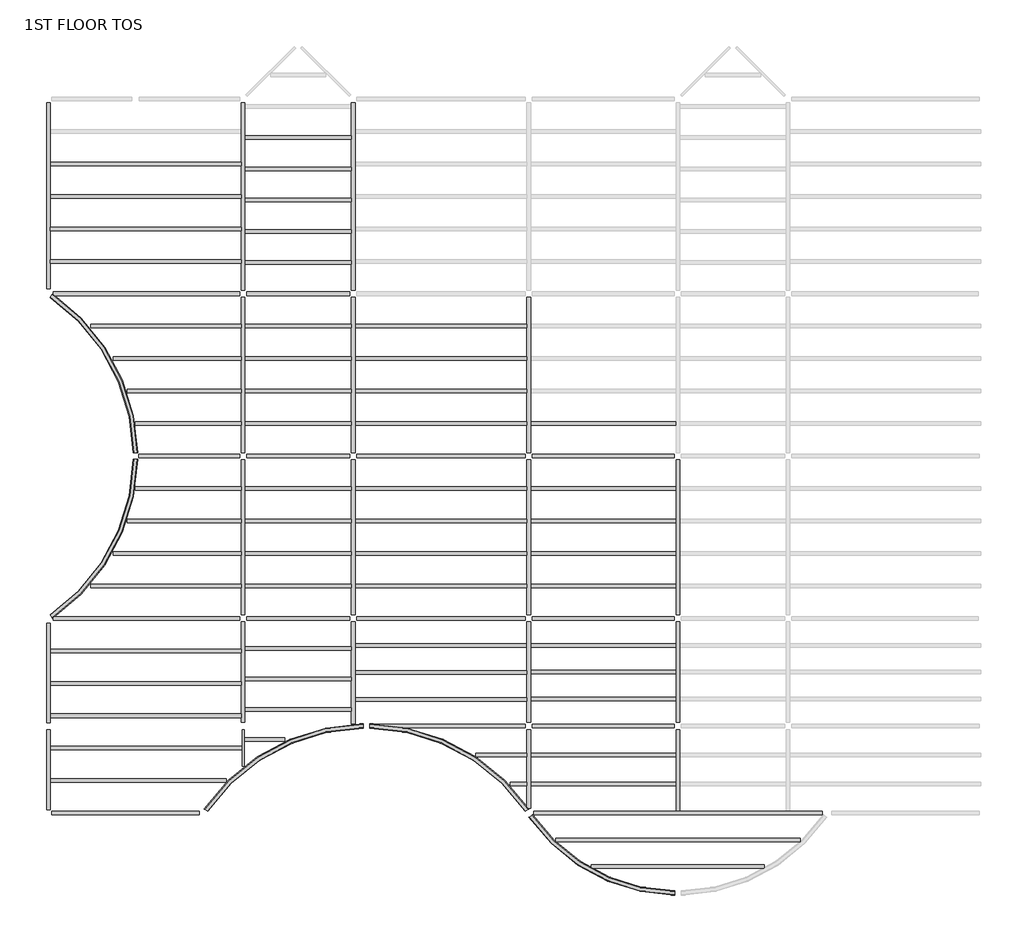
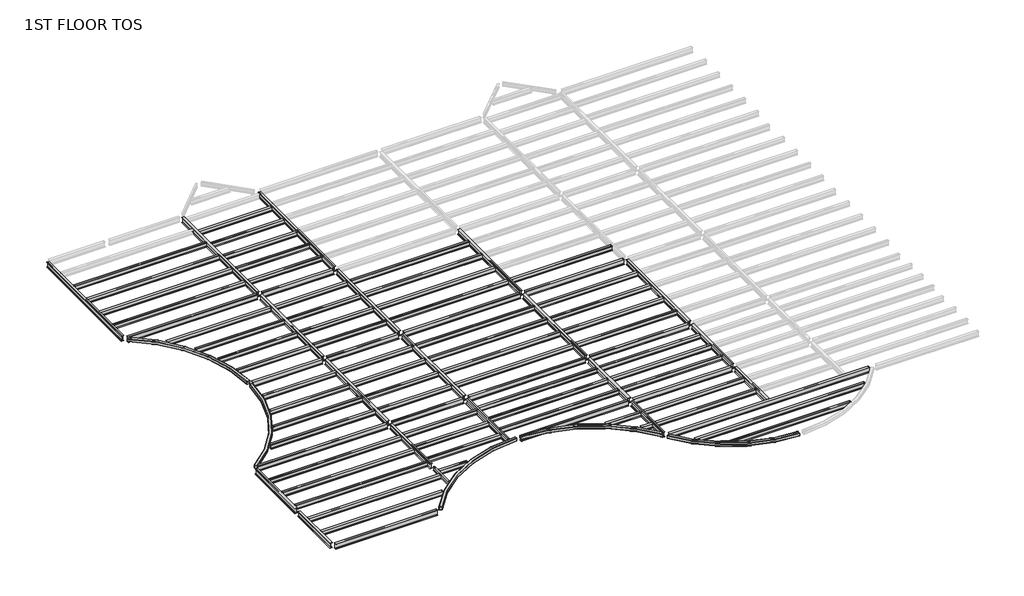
# One storey, part 1 of 2: 97 beams.
"""IFC4 building model written with IfcOpenShell, lengths in millimetres."""

from ifc_helpers import new_model, si_unit, origin, place, context, project, spatial, transform, mapped, element, save
from components import m_hss_square_hss203_2x203_2x9_5_18346204, m_hss_square_hss203_2x203_2x9_5_914ff4eb, m_hss_square_hss203_2x203_2x9_5_d5f1e8c4, m_hss_square_hss203_2x203_2x9_5_0e3d8e6e, m_hss_square_hss203_2x203_2x9_5_16dc1c03, ub_universal_beams_ub254x102x28_4e7f3726, ub_universal_beams_ub305x165x40_c4d0385b, ub_universal_beams_ub305x165x40_d3abc31d, ub_universal_beams_ub305x165x40_0c73730f, ub_universal_beams_ub305x165x40_2a963f0c, ub_universal_beams_ub305x165x40_0a5f2f96, ub_universal_beams_ub305x165x40_d1f7c369, ub_universal_beams_ub305x165x40_83d7b7d5, ub_universal_beams_ub305x165x40_729a4ea5, ub_universal_beams_ub305x165x40_71dfa851, ub_universal_beams_ub305x165x40_619b5398, ub_universal_beams_ub305x165x40_c3492db1, ub_universal_beams_ub305x165x40_8f1c350d, ub_universal_beams_ub305x165x40_3afb5f90, ub_universal_beams_ub305x165x40_767d1929, ub_universal_beams_ub305x165x40_5941ca45, ub_universal_beams_ub356x171x51_ef72dcdd, ub_universal_beams_ub356x171x51_7f80702c, ub_universal_beams_ub356x171x51_dfc36663, ub_universal_beams_ub356x171x51_405a853e, ub_universal_beams_ub356x171x51_e47b7055, ub_universal_beams_ub356x171x51_e97f8d2e, ub_universal_beams_ub356x171x51_11d6b780, ub_universal_beams_ub356x171x51_76b2d20b, ub_universal_beams_ub356x171x51_145ecd4b, ub_universal_beams_ub356x171x51_c7dff8d2, ub_universal_beams_ub356x171x51_834c6e34, ub_universal_beams_ub356x171x51_a38b99de, ub_universal_beams_ub356x171x51_d8f4cdde, ub_universal_beams_ub356x171x51_8094f821, ub_universal_beams_ub356x171x51_c03c70fb, ub_universal_beams_ub356x171x51_e661f2e4, ub_universal_beams_ub356x171x51_3ee91673, ub_universal_beams_ub356x171x51_a871b283, ub_universal_beams_ub356x171x51_741bae58

model = new_model("IFC4")

# Units and contexts
model_context = context("Model", 3, world=origin())
ifc_project = project(units=[si_unit("LENGTHUNIT", "METRE", prefix="MILLI")], contexts=[model_context])

# Site, building, storey
site = spatial("IfcSite", under=ifc_project)
building = spatial("IfcBuilding", under=site)
storey = spatial("IfcBuildingStorey", under=building, Name="1ST FLOOR TOS", Elevation=4419.6)

# Beams
placement = place(None, origin())
m_hss_square_hss203_2x203_2x9_5_shape = m_hss_square_hss203_2x203_2x9_5_18346204(model_context)
element("IfcBeam", 1, ObjectType="M_HSS Square : HSS203.2X203.2X9.5", at=placement, inside=storey, context=model_context, shape_type="MappedRepresentation", body=[
    mapped(m_hss_square_hss203_2x203_2x9_5_shape, transform((29734.7266693, -3601.398624, 4318.1), x_axis=(-0.9999968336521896, -0.0025164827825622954, 0.0), y_axis=(0.0025164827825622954, -0.9999968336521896, 0.0), z_axis=(0.0, 0.0, 1.0))),
])
m_hss_square_hss203_2x203_2x9_5_2_shape = m_hss_square_hss203_2x203_2x9_5_914ff4eb(model_context)
element("IfcBeam", 2, ObjectType="M_HSS Square : HSS203.2X203.2X9.5", at=placement, inside=storey, context=model_context, shape_type="MappedRepresentation", body=[
    mapped(m_hss_square_hss203_2x203_2x9_5_2_shape, transform((22710.575, 155.575, 4318.1), x_axis=(-0.552849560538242, 0.8332810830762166, 0.0), y_axis=(-0.8332810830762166, -0.552849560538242, 0.0), z_axis=(0.0, 0.0, 1.0))),
])
m_hss_square_hss203_2x203_2x9_5_3_shape = m_hss_square_hss203_2x203_2x9_5_d5f1e8c4(model_context)
element("IfcBeam", 3, ObjectType="M_HSS Square : HSS203.2X203.2X9.5", at=placement, inside=storey, context=model_context, shape_type="MappedRepresentation", body=[
    mapped(m_hss_square_hss203_2x203_2x9_5_3_shape, transform((15096.4572854, 4244.5731081, 4318.1), x_axis=(-0.9999997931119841, 0.0006432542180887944, 0.0), y_axis=(-0.0006432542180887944, -0.9999997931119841, 0.0), z_axis=(0.0, 0.0, 1.0))),
])
m_hss_square_hss203_2x203_2x9_5_4_shape = m_hss_square_hss203_2x203_2x9_5_0e3d8e6e(model_context)
element("IfcBeam", 4, ObjectType="M_HSS Square : HSS203.2X203.2X9.5", at=placement, inside=storey, context=model_context, shape_type="MappedRepresentation", body=[
    mapped(m_hss_square_hss203_2x203_2x9_5_4_shape, transform((155.575, 9299.575, 4318.1), x_axis=(0.8332810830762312, 0.5528495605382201, 0.0), y_axis=(-0.5528495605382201, 0.8332810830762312, 0.0), z_axis=(0.0, 0.0, 1.0))),
])
m_hss_square_hss203_2x203_2x9_5_5_shape = m_hss_square_hss203_2x203_2x9_5_16dc1c03(model_context)
element("IfcBeam", 5, ObjectType="M_HSS Square : HSS203.2X203.2X9.5", at=placement, inside=storey, context=model_context, shape_type="MappedRepresentation", body=[
    mapped(m_hss_square_hss203_2x203_2x9_5_5_shape, transform((155.575, 24539.575, 4318.1), x_axis=(0.8332810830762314, -0.5528495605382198, 0.0), y_axis=(0.5528495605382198, 0.8332810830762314, 0.0), z_axis=(0.0, 0.0, 1.0))),
])
ub_universal_beams_ub254x102x28_shape = ub_universal_beams_ub254x102x28_4e7f3726(model_context)
element("IfcBeam", 6, ObjectType="UB-Universal Beams : UB254x102x28", at=placement, inside=storey, context=model_context, shape_type="MappedRepresentation", body=[
    mapped(ub_universal_beams_ub254x102x28_shape, transform((9299.575, 3210.915913, 4289.4), x_axis=(0.0, -1.0, 0.0), y_axis=(1.0, 0.0, 0.0), z_axis=(0.0, 0.0, 1.0))),
])
ub_universal_beams_ub305x165x40_shape = ub_universal_beams_ub305x165x40_c4d0385b(model_context)
element("IfcBeam", 7, ObjectType="UB-Universal Beams : UB305x165x40", at=placement, inside=storey, context=model_context, shape_type="MappedRepresentation", body=[
    mapped(ub_universal_beams_ub305x165x40_shape, transform((4727.575, 30635.575, 4267.9), x_axis=(1.0, 0.0, 0.0), y_axis=(0.0, 1.0, 0.0), z_axis=(0.0, 0.0, 1.0))),
])
element("IfcBeam", 8, ObjectType="UB-Universal Beams : UB305x165x40", at=placement, inside=storey, context=model_context, shape_type="MappedRepresentation", body=[
    mapped(ub_universal_beams_ub305x165x40_shape, transform((4727.575, 29111.575, 4267.9), x_axis=(1.0, 0.0, 0.0), y_axis=(0.0, 1.0, 0.0), z_axis=(0.0, 0.0, 1.0))),
])
element("IfcBeam", 9, ObjectType="UB-Universal Beams : UB305x165x40", at=placement, inside=storey, context=model_context, shape_type="MappedRepresentation", body=[
    mapped(ub_universal_beams_ub305x165x40_shape, transform((4727.575, 27587.575, 4267.9), x_axis=(1.0, 0.0, 0.0), y_axis=(0.0, 1.0, 0.0), z_axis=(0.0, 0.0, 1.0))),
])
element("IfcBeam", 10, ObjectType="UB-Universal Beams : UB305x165x40", at=placement, inside=storey, context=model_context, shape_type="MappedRepresentation", body=[
    mapped(ub_universal_beams_ub305x165x40_shape, transform((4727.575, 26063.575, 4267.9), x_axis=(1.0, 0.0, 0.0), y_axis=(0.0, 1.0, 0.0), z_axis=(0.0, 0.0, 1.0))),
])
element("IfcBeam", 11, ObjectType="UB-Universal Beams : UB305x165x40", at=placement, inside=storey, context=model_context, shape_type="MappedRepresentation", body=[
    mapped(ub_universal_beams_ub305x165x40_shape, transform((4727.575, 4727.575, 4267.9), x_axis=(-1.0, 0.0, 0.0), y_axis=(0.0, -1.0, 0.0), z_axis=(0.0, 0.0, 1.0))),
])
element("IfcBeam", 12, ObjectType="UB-Universal Beams : UB305x165x40", at=placement, inside=storey, context=model_context, shape_type="MappedRepresentation", body=[
    mapped(ub_universal_beams_ub305x165x40_shape, transform((4727.575, 6251.575, 4267.9), x_axis=(-1.0, 0.0, 0.0), y_axis=(0.0, -1.0, 0.0), z_axis=(0.0, 0.0, 1.0))),
])
element("IfcBeam", 13, ObjectType="UB-Universal Beams : UB305x165x40", at=placement, inside=storey, context=model_context, shape_type="MappedRepresentation", body=[
    mapped(ub_universal_beams_ub305x165x40_shape, transform((4727.575, 7775.575, 4267.9), x_axis=(-1.0, 0.0, 0.0), y_axis=(0.0, -1.0, 0.0), z_axis=(0.0, 0.0, 1.0))),
])
ub_universal_beams_ub305x165x40_2_shape = ub_universal_beams_ub305x165x40_d3abc31d(model_context)
element("IfcBeam", 14, ObjectType="UB-Universal Beams : UB305x165x40", at=placement, inside=storey, context=model_context, shape_type="MappedRepresentation", body=[
    mapped(ub_universal_beams_ub305x165x40_2_shape, transform((11885.575, 31870.825, 4267.9), x_axis=(1.0, 0.0, 0.0), y_axis=(0.0, 1.0, 0.0), z_axis=(0.0, 0.0, 1.0))),
])
element("IfcBeam", 15, ObjectType="UB-Universal Beams : UB305x165x40", at=placement, inside=storey, context=model_context, shape_type="MappedRepresentation", body=[
    mapped(ub_universal_beams_ub305x165x40_2_shape, transform((11885.575, 30404.575, 4267.9), x_axis=(1.0, 0.0, 0.0), y_axis=(0.0, 1.0, 0.0), z_axis=(0.0, 0.0, 1.0))),
])
element("IfcBeam", 16, ObjectType="UB-Universal Beams : UB305x165x40", at=placement, inside=storey, context=model_context, shape_type="MappedRepresentation", body=[
    mapped(ub_universal_beams_ub305x165x40_2_shape, transform((11885.575, 28938.325, 4267.9), x_axis=(1.0, 0.0, 0.0), y_axis=(0.0, 1.0, 0.0), z_axis=(0.0, 0.0, 1.0))),
])
element("IfcBeam", 17, ObjectType="UB-Universal Beams : UB305x165x40", at=placement, inside=storey, context=model_context, shape_type="MappedRepresentation", body=[
    mapped(ub_universal_beams_ub305x165x40_2_shape, transform((11885.575, 27472.075, 4267.9), x_axis=(1.0, 0.0, 0.0), y_axis=(0.0, 1.0, 0.0), z_axis=(0.0, 0.0, 1.0))),
])
element("IfcBeam", 18, ObjectType="UB-Universal Beams : UB305x165x40", at=placement, inside=storey, context=model_context, shape_type="MappedRepresentation", body=[
    mapped(ub_universal_beams_ub305x165x40_2_shape, transform((11885.575, 26005.825, 4267.9), x_axis=(1.0, 0.0, 0.0), y_axis=(0.0, 1.0, 0.0), z_axis=(0.0, 0.0, 1.0))),
])
element("IfcBeam", 19, ObjectType="UB-Universal Beams : UB305x165x40", at=placement, inside=storey, context=model_context, shape_type="MappedRepresentation", body=[
    mapped(ub_universal_beams_ub305x165x40_2_shape, transform((11885.575, 23015.575, 4267.9), x_axis=(1.0, 0.0, 0.0), y_axis=(0.0, 1.0, 0.0), z_axis=(0.0, 0.0, 1.0))),
])
element("IfcBeam", 20, ObjectType="UB-Universal Beams : UB305x165x40", at=placement, inside=storey, context=model_context, shape_type="MappedRepresentation", body=[
    mapped(ub_universal_beams_ub305x165x40_2_shape, transform((11885.575, 21491.575, 4267.9), x_axis=(1.0, 0.0, 0.0), y_axis=(0.0, 1.0, 0.0), z_axis=(0.0, 0.0, 1.0))),
])
element("IfcBeam", 21, ObjectType="UB-Universal Beams : UB305x165x40", at=placement, inside=storey, context=model_context, shape_type="MappedRepresentation", body=[
    mapped(ub_universal_beams_ub305x165x40_2_shape, transform((11885.575, 19967.575, 4267.9), x_axis=(1.0, 0.0, 0.0), y_axis=(0.0, 1.0, 0.0), z_axis=(0.0, 0.0, 1.0))),
])
element("IfcBeam", 22, ObjectType="UB-Universal Beams : UB305x165x40", at=placement, inside=storey, context=model_context, shape_type="MappedRepresentation", body=[
    mapped(ub_universal_beams_ub305x165x40_2_shape, transform((11885.575, 18443.575, 4267.9), x_axis=(1.0, 0.0, 0.0), y_axis=(0.0, 1.0, 0.0), z_axis=(0.0, 0.0, 1.0))),
])
element("IfcBeam", 23, ObjectType="UB-Universal Beams : UB305x165x40", at=placement, inside=storey, context=model_context, shape_type="MappedRepresentation", body=[
    mapped(ub_universal_beams_ub305x165x40_2_shape, transform((11885.575, 15395.575, 4267.9), x_axis=(1.0, 0.0, 0.0), y_axis=(0.0, 1.0, 0.0), z_axis=(0.0, 0.0, 1.0))),
])
element("IfcBeam", 24, ObjectType="UB-Universal Beams : UB305x165x40", at=placement, inside=storey, context=model_context, shape_type="MappedRepresentation", body=[
    mapped(ub_universal_beams_ub305x165x40_2_shape, transform((11885.575, 13871.575, 4267.9), x_axis=(1.0, 0.0, 0.0), y_axis=(0.0, 1.0, 0.0), z_axis=(0.0, 0.0, 1.0))),
])
element("IfcBeam", 25, ObjectType="UB-Universal Beams : UB305x165x40", at=placement, inside=storey, context=model_context, shape_type="MappedRepresentation", body=[
    mapped(ub_universal_beams_ub305x165x40_2_shape, transform((11885.575, 12347.575, 4267.9), x_axis=(1.0, 0.0, 0.0), y_axis=(0.0, 1.0, 0.0), z_axis=(0.0, 0.0, 1.0))),
])
element("IfcBeam", 26, ObjectType="UB-Universal Beams : UB305x165x40", at=placement, inside=storey, context=model_context, shape_type="MappedRepresentation", body=[
    mapped(ub_universal_beams_ub305x165x40_2_shape, transform((11885.575, 10823.575, 4267.9), x_axis=(1.0, 0.0, 0.0), y_axis=(0.0, 1.0, 0.0), z_axis=(0.0, 0.0, 1.0))),
])
element("IfcBeam", 27, ObjectType="UB-Universal Beams : UB305x165x40", at=placement, inside=storey, context=model_context, shape_type="MappedRepresentation", body=[
    mapped(ub_universal_beams_ub305x165x40_2_shape, transform((11885.575, 5026.1840956, 4267.9), x_axis=(-1.0, 0.0, 0.0), y_axis=(0.0, -1.0, 0.0), z_axis=(0.0, 0.0, 1.0))),
])
element("IfcBeam", 28, ObjectType="UB-Universal Beams : UB305x165x40", at=placement, inside=storey, context=model_context, shape_type="MappedRepresentation", body=[
    mapped(ub_universal_beams_ub305x165x40_2_shape, transform((11885.575, 6450.6477304, 4267.9), x_axis=(-1.0, 0.0, 0.0), y_axis=(0.0, -1.0, 0.0), z_axis=(0.0, 0.0, 1.0))),
])
element("IfcBeam", 29, ObjectType="UB-Universal Beams : UB305x165x40", at=placement, inside=storey, context=model_context, shape_type="MappedRepresentation", body=[
    mapped(ub_universal_beams_ub305x165x40_2_shape, transform((11885.575, 7875.1113652, 4267.9), x_axis=(-1.0, 0.0, 0.0), y_axis=(0.0, -1.0, 0.0), z_axis=(0.0, 0.0, 1.0))),
])
ub_universal_beams_ub305x165x40_3_shape = ub_universal_beams_ub305x165x40_0c73730f(model_context)
element("IfcBeam", 30, ObjectType="UB-Universal Beams : UB305x165x40", at=placement, inside=storey, context=model_context, shape_type="MappedRepresentation", body=[
    mapped(ub_universal_beams_ub305x165x40_3_shape, transform((18591.075, 5492.5943214, 4267.9), x_axis=(-1.0, 0.0, 0.0), y_axis=(0.0, -1.0, 0.0), z_axis=(0.0, 0.0, 1.0))),
])
element("IfcBeam", 31, ObjectType="UB-Universal Beams : UB305x165x40", at=placement, inside=storey, context=model_context, shape_type="MappedRepresentation", body=[
    mapped(ub_universal_beams_ub305x165x40_3_shape, transform((18591.075, 6761.5878809, 4267.9), x_axis=(-1.0, 0.0, 0.0), y_axis=(0.0, -1.0, 0.0), z_axis=(0.0, 0.0, 1.0))),
])
element("IfcBeam", 32, ObjectType="UB-Universal Beams : UB305x165x40", at=placement, inside=storey, context=model_context, shape_type="MappedRepresentation", body=[
    mapped(ub_universal_beams_ub305x165x40_3_shape, transform((18591.075, 8030.5814405, 4267.9), x_axis=(-1.0, 0.0, 0.0), y_axis=(0.0, -1.0, 0.0), z_axis=(0.0, 0.0, 1.0))),
])
element("IfcBeam", 33, ObjectType="UB-Universal Beams : UB305x165x40", at=placement, inside=storey, context=model_context, shape_type="MappedRepresentation", body=[
    mapped(ub_universal_beams_ub305x165x40_3_shape, transform((18591.075, 15395.575, 4267.9), x_axis=(1.0, 0.0, 0.0), y_axis=(0.0, 1.0, 0.0), z_axis=(0.0, 0.0, 1.0))),
])
element("IfcBeam", 34, ObjectType="UB-Universal Beams : UB305x165x40", at=placement, inside=storey, context=model_context, shape_type="MappedRepresentation", body=[
    mapped(ub_universal_beams_ub305x165x40_3_shape, transform((18591.075, 13871.575, 4267.9), x_axis=(1.0, 0.0, 0.0), y_axis=(0.0, 1.0, 0.0), z_axis=(0.0, 0.0, 1.0))),
])
element("IfcBeam", 35, ObjectType="UB-Universal Beams : UB305x165x40", at=placement, inside=storey, context=model_context, shape_type="MappedRepresentation", body=[
    mapped(ub_universal_beams_ub305x165x40_3_shape, transform((18591.075, 12347.575, 4267.9), x_axis=(1.0, 0.0, 0.0), y_axis=(0.0, 1.0, 0.0), z_axis=(0.0, 0.0, 1.0))),
])
element("IfcBeam", 36, ObjectType="UB-Universal Beams : UB305x165x40", at=placement, inside=storey, context=model_context, shape_type="MappedRepresentation", body=[
    mapped(ub_universal_beams_ub305x165x40_3_shape, transform((18591.075, 10823.575, 4267.9), x_axis=(1.0, 0.0, 0.0), y_axis=(0.0, 1.0, 0.0), z_axis=(0.0, 0.0, 1.0))),
])
element("IfcBeam", 37, ObjectType="UB-Universal Beams : UB305x165x40", at=placement, inside=storey, context=model_context, shape_type="MappedRepresentation", body=[
    mapped(ub_universal_beams_ub305x165x40_3_shape, transform((18591.075, 23015.575, 4267.9), x_axis=(1.0, 0.0, 0.0), y_axis=(0.0, 1.0, 0.0), z_axis=(0.0, 0.0, 1.0))),
])
element("IfcBeam", 38, ObjectType="UB-Universal Beams : UB305x165x40", at=placement, inside=storey, context=model_context, shape_type="MappedRepresentation", body=[
    mapped(ub_universal_beams_ub305x165x40_3_shape, transform((18591.075, 21491.575, 4267.9), x_axis=(1.0, 0.0, 0.0), y_axis=(0.0, 1.0, 0.0), z_axis=(0.0, 0.0, 1.0))),
])
element("IfcBeam", 39, ObjectType="UB-Universal Beams : UB305x165x40", at=placement, inside=storey, context=model_context, shape_type="MappedRepresentation", body=[
    mapped(ub_universal_beams_ub305x165x40_3_shape, transform((18591.075, 19967.575, 4267.9), x_axis=(1.0, 0.0, 0.0), y_axis=(0.0, 1.0, 0.0), z_axis=(0.0, 0.0, 1.0))),
])
element("IfcBeam", 40, ObjectType="UB-Universal Beams : UB305x165x40", at=placement, inside=storey, context=model_context, shape_type="MappedRepresentation", body=[
    mapped(ub_universal_beams_ub305x165x40_3_shape, transform((18591.075, 18443.575, 4267.9), x_axis=(1.0, 0.0, 0.0), y_axis=(0.0, 1.0, 0.0), z_axis=(0.0, 0.0, 1.0))),
])
ub_universal_beams_ub305x165x40_4_shape = ub_universal_beams_ub305x165x40_2a963f0c(model_context)
element("IfcBeam", 41, ObjectType="UB-Universal Beams : UB305x165x40", at=placement, inside=storey, context=model_context, shape_type="MappedRepresentation", body=[
    mapped(ub_universal_beams_ub305x165x40_4_shape, transform((26211.075, 18443.575, 4267.9), x_axis=(1.0, 0.0, 0.0), y_axis=(0.0, 1.0, 0.0), z_axis=(0.0, 0.0, 1.0))),
])
element("IfcBeam", 42, ObjectType="UB-Universal Beams : UB305x165x40", at=placement, inside=storey, context=model_context, shape_type="MappedRepresentation", body=[
    mapped(ub_universal_beams_ub305x165x40_4_shape, transform((26211.075, 15395.575, 4267.9), x_axis=(1.0, 0.0, 0.0), y_axis=(0.0, 1.0, 0.0), z_axis=(0.0, 0.0, 1.0))),
])
element("IfcBeam", 43, ObjectType="UB-Universal Beams : UB305x165x40", at=placement, inside=storey, context=model_context, shape_type="MappedRepresentation", body=[
    mapped(ub_universal_beams_ub305x165x40_4_shape, transform((26211.075, 13871.575, 4267.9), x_axis=(1.0, 0.0, 0.0), y_axis=(0.0, 1.0, 0.0), z_axis=(0.0, 0.0, 1.0))),
])
element("IfcBeam", 44, ObjectType="UB-Universal Beams : UB305x165x40", at=placement, inside=storey, context=model_context, shape_type="MappedRepresentation", body=[
    mapped(ub_universal_beams_ub305x165x40_4_shape, transform((26211.075, 12347.575, 4267.9), x_axis=(1.0, 0.0, 0.0), y_axis=(0.0, 1.0, 0.0), z_axis=(0.0, 0.0, 1.0))),
])
element("IfcBeam", 45, ObjectType="UB-Universal Beams : UB305x165x40", at=placement, inside=storey, context=model_context, shape_type="MappedRepresentation", body=[
    mapped(ub_universal_beams_ub305x165x40_4_shape, transform((26211.075, 10823.575, 4267.9), x_axis=(1.0, 0.0, 0.0), y_axis=(0.0, 1.0, 0.0), z_axis=(0.0, 0.0, 1.0))),
])
element("IfcBeam", 46, ObjectType="UB-Universal Beams : UB305x165x40", at=placement, inside=storey, context=model_context, shape_type="MappedRepresentation", body=[
    mapped(ub_universal_beams_ub305x165x40_4_shape, transform((26211.075, 5508.325, 4267.9), x_axis=(-1.0, 0.0, 0.0), y_axis=(0.0, -1.0, 0.0), z_axis=(0.0, 0.0, 1.0))),
])
element("IfcBeam", 47, ObjectType="UB-Universal Beams : UB305x165x40", at=placement, inside=storey, context=model_context, shape_type="MappedRepresentation", body=[
    mapped(ub_universal_beams_ub305x165x40_4_shape, transform((26211.075, 6772.075, 4267.9), x_axis=(-1.0, 0.0, 0.0), y_axis=(0.0, -1.0, 0.0), z_axis=(0.0, 0.0, 1.0))),
])
element("IfcBeam", 48, ObjectType="UB-Universal Beams : UB305x165x40", at=placement, inside=storey, context=model_context, shape_type="MappedRepresentation", body=[
    mapped(ub_universal_beams_ub305x165x40_4_shape, transform((26211.075, 8035.825, 4267.9), x_axis=(-1.0, 0.0, 0.0), y_axis=(0.0, -1.0, 0.0), z_axis=(0.0, 0.0, 1.0))),
])
element("IfcBeam", 49, ObjectType="UB-Universal Beams : UB305x165x40", at=placement, inside=storey, context=model_context, shape_type="MappedRepresentation", body=[
    mapped(ub_universal_beams_ub305x165x40_4_shape, transform((26211.075, 1518.575, 4267.9), x_axis=(-1.0, 0.0, 0.0), y_axis=(0.0, -1.0, 0.0), z_axis=(0.0, 0.0, 1.0))),
])
element("IfcBeam", 50, ObjectType="UB-Universal Beams : UB305x165x40", at=placement, inside=storey, context=model_context, shape_type="MappedRepresentation", body=[
    mapped(ub_universal_beams_ub305x165x40_4_shape, transform((26211.075, 2881.575, 4267.9), x_axis=(-1.0, 0.0, 0.0), y_axis=(0.0, -1.0, 0.0), z_axis=(0.0, 0.0, 1.0))),
])
ub_universal_beams_ub305x165x40_5_shape = ub_universal_beams_ub305x165x40_0a5f2f96(model_context)
element("IfcBeam", 51, ObjectType="UB-Universal Beams : UB305x165x40", at=placement, inside=storey, context=model_context, shape_type="MappedRepresentation", body=[
    mapped(ub_universal_beams_ub305x165x40_5_shape, transform((29713.575, -2349.0918253, 4267.9), x_axis=(-1.0, 0.0, 0.0), y_axis=(0.0, -1.0, 0.0), z_axis=(0.0, 0.0, 1.0))),
])
ub_universal_beams_ub305x165x40_6_shape = ub_universal_beams_ub305x165x40_d1f7c369(model_context)
element("IfcBeam", 52, ObjectType="UB-Universal Beams : UB305x165x40", at=placement, inside=storey, context=model_context, shape_type="MappedRepresentation", body=[
    mapped(ub_universal_beams_ub305x165x40_6_shape, transform((29713.575, -1096.7584126, 4267.9), x_axis=(-1.0, 0.0, 0.0), y_axis=(0.0, -1.0, 0.0), z_axis=(0.0, 0.0, 1.0))),
])
ub_universal_beams_ub305x165x40_7_shape = ub_universal_beams_ub305x165x40_83d7b7d5(model_context)
element("IfcBeam", 53, ObjectType="UB-Universal Beams : UB305x165x40", at=placement, inside=storey, context=model_context, shape_type="MappedRepresentation", body=[
    mapped(ub_universal_beams_ub305x165x40_7_shape, transform((22157.3041106, 1518.575, 4267.9), x_axis=(-1.0, 0.0, 0.0), y_axis=(0.0, -1.0, 0.0), z_axis=(0.0, 0.0, 1.0))),
])
ub_universal_beams_ub305x165x40_8_shape = ub_universal_beams_ub305x165x40_729a4ea5(model_context)
element("IfcBeam", 54, ObjectType="UB-Universal Beams : UB305x165x40", at=placement, inside=storey, context=model_context, shape_type="MappedRepresentation", body=[
    mapped(ub_universal_beams_ub305x165x40_8_shape, transform((21302.1545844, 2881.575, 4267.9), x_axis=(-1.0, 0.0, 0.0), y_axis=(0.0, -1.0, 0.0), z_axis=(0.0, 0.0, 1.0))),
])
ub_universal_beams_ub305x165x40_9_shape = ub_universal_beams_ub305x165x40_71dfa851(model_context)
element("IfcBeam", 55, ObjectType="UB-Universal Beams : UB305x165x40", at=placement, inside=storey, context=model_context, shape_type="MappedRepresentation", body=[
    mapped(ub_universal_beams_ub305x165x40_9_shape, transform((10511.0323166, 3601.7204608, 4267.9), x_axis=(-1.0, 0.0, 0.0), y_axis=(0.0, -1.0, 0.0), z_axis=(0.0, 0.0, 1.0))),
])
ub_universal_beams_ub305x165x40_10_shape = ub_universal_beams_ub305x165x40_619b5398(model_context)
element("IfcBeam", 56, ObjectType="UB-Universal Beams : UB305x165x40", at=placement, inside=storey, context=model_context, shape_type="MappedRepresentation", body=[
    mapped(ub_universal_beams_ub305x165x40_10_shape, transform((4447.6838282, 1679.575, 4267.9), x_axis=(-1.0, 0.0, 0.0), y_axis=(0.0, -1.0, 0.0), z_axis=(0.0, 0.0, 1.0))),
])
ub_universal_beams_ub305x165x40_11_shape = ub_universal_beams_ub305x165x40_c3492db1(model_context)
element("IfcBeam", 57, ObjectType="UB-Universal Beams : UB305x165x40", at=placement, inside=storey, context=model_context, shape_type="MappedRepresentation", body=[
    mapped(ub_universal_beams_ub305x165x40_11_shape, transform((4727.575, 3203.575, 4267.9), x_axis=(-1.0, 0.0, 0.0), y_axis=(0.0, -1.0, 0.0), z_axis=(0.0, 0.0, 1.0))),
])
ub_universal_beams_ub305x165x40_12_shape = ub_universal_beams_ub305x165x40_8f1c350d(model_context)
element("IfcBeam", 58, ObjectType="UB-Universal Beams : UB305x165x40", at=placement, inside=storey, context=model_context, shape_type="MappedRepresentation", body=[
    mapped(ub_universal_beams_ub305x165x40_12_shape, transform((6708.1318611, 15395.575, 4267.9), x_axis=(1.0, 0.0, 0.0), y_axis=(0.0, 1.0, 0.0), z_axis=(0.0, 0.0, 1.0))),
])
element("IfcBeam", 59, ObjectType="UB-Universal Beams : UB305x165x40", at=placement, inside=storey, context=model_context, shape_type="MappedRepresentation", body=[
    mapped(ub_universal_beams_ub305x165x40_12_shape, transform((6708.1318611, 18443.575, 4267.9), x_axis=(1.0, 0.0, 0.0), y_axis=(0.0, 1.0, 0.0), z_axis=(0.0, 0.0, 1.0))),
])
ub_universal_beams_ub305x165x40_13_shape = ub_universal_beams_ub305x165x40_3afb5f90(model_context)
element("IfcBeam", 60, ObjectType="UB-Universal Beams : UB305x165x40", at=placement, inside=storey, context=model_context, shape_type="MappedRepresentation", body=[
    mapped(ub_universal_beams_ub305x165x40_13_shape, transform((6510.6153272, 13871.575, 4267.9), x_axis=(1.0, 0.0, 0.0), y_axis=(0.0, 1.0, 0.0), z_axis=(0.0, 0.0, 1.0))),
])
element("IfcBeam", 61, ObjectType="UB-Universal Beams : UB305x165x40", at=placement, inside=storey, context=model_context, shape_type="MappedRepresentation", body=[
    mapped(ub_universal_beams_ub305x165x40_13_shape, transform((6510.6153272, 19967.575, 4267.9), x_axis=(1.0, 0.0, 0.0), y_axis=(0.0, 1.0, 0.0), z_axis=(0.0, 0.0, 1.0))),
])
ub_universal_beams_ub305x165x40_14_shape = ub_universal_beams_ub305x165x40_767d1929(model_context)
element("IfcBeam", 62, ObjectType="UB-Universal Beams : UB305x165x40", at=placement, inside=storey, context=model_context, shape_type="MappedRepresentation", body=[
    mapped(ub_universal_beams_ub305x165x40_14_shape, transform((6159.5874928, 12347.575, 4267.9), x_axis=(1.0, 0.0, 0.0), y_axis=(0.0, 1.0, 0.0), z_axis=(0.0, 0.0, 1.0))),
])
element("IfcBeam", 63, ObjectType="UB-Universal Beams : UB305x165x40", at=placement, inside=storey, context=model_context, shape_type="MappedRepresentation", body=[
    mapped(ub_universal_beams_ub305x165x40_14_shape, transform((6159.5874928, 21491.575, 4267.9), x_axis=(1.0, 0.0, 0.0), y_axis=(0.0, 1.0, 0.0), z_axis=(0.0, 0.0, 1.0))),
])
ub_universal_beams_ub305x165x40_15_shape = ub_universal_beams_ub305x165x40_5941ca45(model_context)
element("IfcBeam", 64, ObjectType="UB-Universal Beams : UB305x165x40", at=placement, inside=storey, context=model_context, shape_type="MappedRepresentation", body=[
    mapped(ub_universal_beams_ub305x165x40_15_shape, transform((5607.9405309, 10823.575, 4267.9), x_axis=(1.0, 0.0, 0.0), y_axis=(0.0, 1.0, 0.0), z_axis=(0.0, 0.0, 1.0))),
])
element("IfcBeam", 65, ObjectType="UB-Universal Beams : UB305x165x40", at=placement, inside=storey, context=model_context, shape_type="MappedRepresentation", body=[
    mapped(ub_universal_beams_ub305x165x40_15_shape, transform((5607.9405309, 23015.575, 4267.9), x_axis=(1.0, 0.0, 0.0), y_axis=(0.0, 1.0, 0.0), z_axis=(0.0, 0.0, 1.0))),
])
ub_universal_beams_ub356x171x51_shape = ub_universal_beams_ub356x171x51_ef72dcdd(model_context)
element("IfcBeam", 66, ObjectType="UB-Universal Beams : UB356x171x51", at=placement, inside=storey, context=model_context, shape_type="MappedRepresentation", body=[
    mapped(ub_universal_beams_ub356x171x51_shape, transform((9299.575, 6772.075, 4242.1), x_axis=(0.0, -1.0, 0.0), y_axis=(1.0, 0.0, 0.0), z_axis=(0.0, 0.0, 1.0))),
])
element("IfcBeam", 67, ObjectType="UB-Universal Beams : UB356x171x51", at=placement, inside=storey, context=model_context, shape_type="MappedRepresentation", body=[
    mapped(ub_universal_beams_ub356x171x51_shape, transform((29711.575, 6772.075, 4242.1), x_axis=(0.0, 1.0, 0.0), y_axis=(-1.0, 0.0, 0.0), z_axis=(0.0, 0.0, 1.0))),
])
element("IfcBeam", 68, ObjectType="UB-Universal Beams : UB356x171x51", at=placement, inside=storey, context=model_context, shape_type="MappedRepresentation", body=[
    mapped(ub_universal_beams_ub356x171x51_shape, transform((22710.575, 6772.075, 4242.1), x_axis=(0.0, -1.0, 0.0), y_axis=(1.0, 0.0, 0.0), z_axis=(0.0, 0.0, 1.0))),
])
ub_universal_beams_ub356x171x51_2_shape = ub_universal_beams_ub356x171x51_7f80702c(model_context)
element("IfcBeam", 69, ObjectType="UB-Universal Beams : UB356x171x51", at=placement, inside=storey, context=model_context, shape_type="MappedRepresentation", body=[
    mapped(ub_universal_beams_ub356x171x51_2_shape, transform((3813.075, 155.575, 4242.1), x_axis=(-1.0, 0.0, 0.0), y_axis=(0.0, -1.0, 0.0), z_axis=(0.0, 0.0, 1.0))),
])
ub_universal_beams_ub356x171x51_3_shape = ub_universal_beams_ub356x171x51_dfc36663(model_context)
element("IfcBeam", 70, ObjectType="UB-Universal Beams : UB356x171x51", at=placement, inside=storey, context=model_context, shape_type="MappedRepresentation", body=[
    mapped(ub_universal_beams_ub356x171x51_3_shape, transform((155.575, 2200.075, 4242.1), x_axis=(0.0, 1.0, 0.0), y_axis=(-1.0, 0.0, 0.0), z_axis=(0.0, 0.0, 1.0))),
])
ub_universal_beams_ub356x171x51_4_shape = ub_universal_beams_ub356x171x51_405a853e(model_context)
element("IfcBeam", 71, ObjectType="UB-Universal Beams : UB356x171x51", at=placement, inside=storey, context=model_context, shape_type="MappedRepresentation", body=[
    mapped(ub_universal_beams_ub356x171x51_4_shape, transform((155.575, 6772.075, 4242.1), x_axis=(0.0, 1.0, 0.0), y_axis=(-1.0, 0.0, 0.0), z_axis=(0.0, 0.0, 1.0))),
])
ub_universal_beams_ub356x171x51_5_shape = ub_universal_beams_ub356x171x51_e47b7055(model_context)
element("IfcBeam", 72, ObjectType="UB-Universal Beams : UB356x171x51", at=placement, inside=storey, context=model_context, shape_type="MappedRepresentation", body=[
    mapped(ub_universal_beams_ub356x171x51_5_shape, transform((155.575, 29111.575, 4242.1), x_axis=(0.0, 1.0, 0.0), y_axis=(-1.0, 0.0, 0.0), z_axis=(0.0, 0.0, 1.0))),
])
ub_universal_beams_ub356x171x51_6_shape = ub_universal_beams_ub356x171x51_e97f8d2e(model_context)
element("IfcBeam", 73, ObjectType="UB-Universal Beams : UB356x171x51", at=placement, inside=storey, context=model_context, shape_type="MappedRepresentation", body=[
    mapped(ub_universal_beams_ub356x171x51_6_shape, transform((4727.575, 24539.575, 4242.1), x_axis=(1.0, 0.0, 0.0), y_axis=(0.0, 1.0, 0.0), z_axis=(0.0, 0.0, 1.0))),
])
ub_universal_beams_ub356x171x51_7_shape = ub_universal_beams_ub356x171x51_11d6b780(model_context)
element("IfcBeam", 74, ObjectType="UB-Universal Beams : UB356x171x51", at=placement, inside=storey, context=model_context, shape_type="MappedRepresentation", body=[
    mapped(ub_universal_beams_ub356x171x51_7_shape, transform((11885.575, 24539.575, 4242.1), x_axis=(1.0, 0.0, 0.0), y_axis=(0.0, 1.0, 0.0), z_axis=(0.0, 0.0, 1.0))),
])
element("IfcBeam", 75, ObjectType="UB-Universal Beams : UB356x171x51", at=placement, inside=storey, context=model_context, shape_type="MappedRepresentation", body=[
    mapped(ub_universal_beams_ub356x171x51_7_shape, transform((11885.575, 9299.575, 4242.1), x_axis=(-1.0, 0.0, 0.0), y_axis=(0.0, -1.0, 0.0), z_axis=(0.0, 0.0, 1.0))),
])
element("IfcBeam", 76, ObjectType="UB-Universal Beams : UB356x171x51", at=placement, inside=storey, context=model_context, shape_type="MappedRepresentation", body=[
    mapped(ub_universal_beams_ub356x171x51_7_shape, transform((11885.575, 16919.575, 4242.1), x_axis=(1.0, 0.0, 0.0), y_axis=(0.0, 1.0, 0.0), z_axis=(0.0, 0.0, 1.0))),
])
ub_universal_beams_ub356x171x51_8_shape = ub_universal_beams_ub356x171x51_76b2d20b(model_context)
element("IfcBeam", 77, ObjectType="UB-Universal Beams : UB356x171x51", at=placement, inside=storey, context=model_context, shape_type="MappedRepresentation", body=[
    mapped(ub_universal_beams_ub356x171x51_8_shape, transform((18591.075, 9299.575, 4242.1), x_axis=(-1.0, 0.0, 0.0), y_axis=(0.0, -1.0, 0.0), z_axis=(0.0, 0.0, 1.0))),
])
element("IfcBeam", 78, ObjectType="UB-Universal Beams : UB356x171x51", at=placement, inside=storey, context=model_context, shape_type="MappedRepresentation", body=[
    mapped(ub_universal_beams_ub356x171x51_8_shape, transform((18591.075, 16919.575, 4242.1), x_axis=(1.0, 0.0, 0.0), y_axis=(0.0, 1.0, 0.0), z_axis=(0.0, 0.0, 1.0))),
])
ub_universal_beams_ub356x171x51_9_shape = ub_universal_beams_ub356x171x51_145ecd4b(model_context)
element("IfcBeam", 79, ObjectType="UB-Universal Beams : UB356x171x51", at=placement, inside=storey, context=model_context, shape_type="MappedRepresentation", body=[
    mapped(ub_universal_beams_ub356x171x51_9_shape, transform((26211.075, 9299.575, 4242.1), x_axis=(-1.0, 0.0, 0.0), y_axis=(0.0, -1.0, 0.0), z_axis=(0.0, 0.0, 1.0))),
])
element("IfcBeam", 80, ObjectType="UB-Universal Beams : UB356x171x51", at=placement, inside=storey, context=model_context, shape_type="MappedRepresentation", body=[
    mapped(ub_universal_beams_ub356x171x51_9_shape, transform((26211.075, 16919.575, 4242.1), x_axis=(1.0, 0.0, 0.0), y_axis=(0.0, 1.0, 0.0), z_axis=(0.0, 0.0, 1.0))),
])
element("IfcBeam", 81, ObjectType="UB-Universal Beams : UB356x171x51", at=placement, inside=storey, context=model_context, shape_type="MappedRepresentation", body=[
    mapped(ub_universal_beams_ub356x171x51_9_shape, transform((26211.075, 4244.575, 4242.1), x_axis=(-1.0, 0.0, 0.0), y_axis=(0.0, -1.0, 0.0), z_axis=(0.0, 0.0, 1.0))),
])
ub_universal_beams_ub356x171x51_10_shape = ub_universal_beams_ub356x171x51_c7dff8d2(model_context)
element("IfcBeam", 82, ObjectType="UB-Universal Beams : UB356x171x51", at=placement, inside=storey, context=model_context, shape_type="MappedRepresentation", body=[
    mapped(ub_universal_beams_ub356x171x51_10_shape, transform((4727.575, 9299.575, 4242.1), x_axis=(-1.0, 0.0, 0.0), y_axis=(0.0, -1.0, 0.0), z_axis=(0.0, 0.0, 1.0))),
])
ub_universal_beams_ub356x171x51_11_shape = ub_universal_beams_ub356x171x51_834c6e34(model_context)
element("IfcBeam", 83, ObjectType="UB-Universal Beams : UB356x171x51", at=placement, inside=storey, context=model_context, shape_type="MappedRepresentation", body=[
    mapped(ub_universal_beams_ub356x171x51_11_shape, transform((14471.575, 6761.5878809, 4242.1), x_axis=(0.0, -1.0, 0.0), y_axis=(1.0, 0.0, 0.0), z_axis=(0.0, 0.0, 1.0))),
])
ub_universal_beams_ub356x171x51_12_shape = ub_universal_beams_ub356x171x51_a38b99de(model_context)
element("IfcBeam", 84, ObjectType="UB-Universal Beams : UB356x171x51", at=placement, inside=storey, context=model_context, shape_type="MappedRepresentation", body=[
    mapped(ub_universal_beams_ub356x171x51_12_shape, transform((9299.575, 13109.575, 4242.1), x_axis=(0.0, 1.0, 0.0), y_axis=(-1.0, 0.0, 0.0), z_axis=(0.0, 0.0, 1.0))),
])
element("IfcBeam", 85, ObjectType="UB-Universal Beams : UB356x171x51", at=placement, inside=storey, context=model_context, shape_type="MappedRepresentation", body=[
    mapped(ub_universal_beams_ub356x171x51_12_shape, transform((9299.575, 20729.575, 4242.1), x_axis=(0.0, 1.0, 0.0), y_axis=(-1.0, 0.0, 0.0), z_axis=(0.0, 0.0, 1.0))),
])
element("IfcBeam", 86, ObjectType="UB-Universal Beams : UB356x171x51", at=placement, inside=storey, context=model_context, shape_type="MappedRepresentation", body=[
    mapped(ub_universal_beams_ub356x171x51_12_shape, transform((14471.575, 20729.575, 4242.1), x_axis=(0.0, -1.0, 0.0), y_axis=(1.0, 0.0, 0.0), z_axis=(0.0, 0.0, 1.0))),
])
element("IfcBeam", 87, ObjectType="UB-Universal Beams : UB356x171x51", at=placement, inside=storey, context=model_context, shape_type="MappedRepresentation", body=[
    mapped(ub_universal_beams_ub356x171x51_12_shape, transform((14471.575, 13109.575, 4242.1), x_axis=(0.0, -1.0, 0.0), y_axis=(1.0, 0.0, 0.0), z_axis=(0.0, 0.0, 1.0))),
])
element("IfcBeam", 88, ObjectType="UB-Universal Beams : UB356x171x51", at=placement, inside=storey, context=model_context, shape_type="MappedRepresentation", body=[
    mapped(ub_universal_beams_ub356x171x51_12_shape, transform((22710.575, 20729.575, 4242.1), x_axis=(0.0, -1.0, 0.0), y_axis=(1.0, 0.0, 0.0), z_axis=(0.0, 0.0, 1.0))),
])
element("IfcBeam", 89, ObjectType="UB-Universal Beams : UB356x171x51", at=placement, inside=storey, context=model_context, shape_type="MappedRepresentation", body=[
    mapped(ub_universal_beams_ub356x171x51_12_shape, transform((22710.575, 13109.575, 4242.1), x_axis=(0.0, -1.0, 0.0), y_axis=(1.0, 0.0, 0.0), z_axis=(0.0, 0.0, 1.0))),
])
element("IfcBeam", 90, ObjectType="UB-Universal Beams : UB356x171x51", at=placement, inside=storey, context=model_context, shape_type="MappedRepresentation", body=[
    mapped(ub_universal_beams_ub356x171x51_12_shape, transform((29711.575, 13109.575, 4242.1), x_axis=(0.0, 1.0, 0.0), y_axis=(-1.0, 0.0, 0.0), z_axis=(0.0, 0.0, 1.0))),
])
ub_universal_beams_ub356x171x51_13_shape = ub_universal_beams_ub356x171x51_d8f4cdde(model_context)
element("IfcBeam", 91, ObjectType="UB-Universal Beams : UB356x171x51", at=placement, inside=storey, context=model_context, shape_type="MappedRepresentation", body=[
    mapped(ub_universal_beams_ub356x171x51_13_shape, transform((9299.575, 29111.575, 4242.1), x_axis=(0.0, 1.0, 0.0), y_axis=(-1.0, 0.0, 0.0), z_axis=(0.0, 0.0, 1.0))),
])
ub_universal_beams_ub356x171x51_14_shape = ub_universal_beams_ub356x171x51_8094f821(model_context)
element("IfcBeam", 92, ObjectType="UB-Universal Beams : UB356x171x51", at=placement, inside=storey, context=model_context, shape_type="MappedRepresentation", body=[
    mapped(ub_universal_beams_ub356x171x51_14_shape, transform((6772.075, 16919.575, 4242.1), x_axis=(1.0, 0.0, 0.0), y_axis=(0.0, 1.0, 0.0), z_axis=(0.0, 0.0, 1.0))),
])
ub_universal_beams_ub356x171x51_15_shape = ub_universal_beams_ub356x171x51_c03c70fb(model_context)
element("IfcBeam", 93, ObjectType="UB-Universal Beams : UB356x171x51", at=placement, inside=storey, context=model_context, shape_type="MappedRepresentation", body=[
    mapped(ub_universal_beams_ub356x171x51_15_shape, transform((14471.575, 29111.575, 4242.1), x_axis=(0.0, -1.0, 0.0), y_axis=(1.0, 0.0, 0.0), z_axis=(0.0, 0.0, 1.0))),
])
ub_universal_beams_ub356x171x51_16_shape = ub_universal_beams_ub356x171x51_e661f2e4(model_context)
element("IfcBeam", 94, ObjectType="UB-Universal Beams : UB356x171x51", at=placement, inside=storey, context=model_context, shape_type="MappedRepresentation", body=[
    mapped(ub_universal_beams_ub356x171x51_16_shape, transform((29713.575, 155.575, 4242.1), x_axis=(-1.0, 0.0, 0.0), y_axis=(0.0, -1.0, 0.0), z_axis=(0.0, 0.0, 1.0))),
])
ub_universal_beams_ub356x171x51_17_shape = ub_universal_beams_ub356x171x51_3ee91673(model_context)
element("IfcBeam", 95, ObjectType="UB-Universal Beams : UB356x171x51", at=placement, inside=storey, context=model_context, shape_type="MappedRepresentation", body=[
    mapped(ub_universal_beams_ub356x171x51_17_shape, transform((18900.575, 4244.575, 4242.1), x_axis=(-1.0, 0.0, 0.0), y_axis=(0.0, -1.0, 0.0), z_axis=(0.0, 0.0, 1.0))),
])
ub_universal_beams_ub356x171x51_18_shape = ub_universal_beams_ub356x171x51_a871b283(model_context)
element("IfcBeam", 96, ObjectType="UB-Universal Beams : UB356x171x51", at=placement, inside=storey, context=model_context, shape_type="MappedRepresentation", body=[
    mapped(ub_universal_beams_ub356x171x51_18_shape, transform((22710.575, 2200.075, 4242.1), x_axis=(0.0, -1.0, 0.0), y_axis=(1.0, 0.0, 0.0), z_axis=(0.0, 0.0, 1.0))),
])
ub_universal_beams_ub356x171x51_19_shape = ub_universal_beams_ub356x171x51_741bae58(model_context)
element("IfcBeam", 97, ObjectType="UB-Universal Beams : UB356x171x51", at=placement, inside=storey, context=model_context, shape_type="MappedRepresentation", body=[
    mapped(ub_universal_beams_ub356x171x51_19_shape, transform((29711.575, 2200.075, 4242.1), x_axis=(0.0, -1.0, 0.0), y_axis=(1.0, 0.0, 0.0), z_axis=(0.0, 0.0, 1.0))),
])

save(model, "model.ifc")
